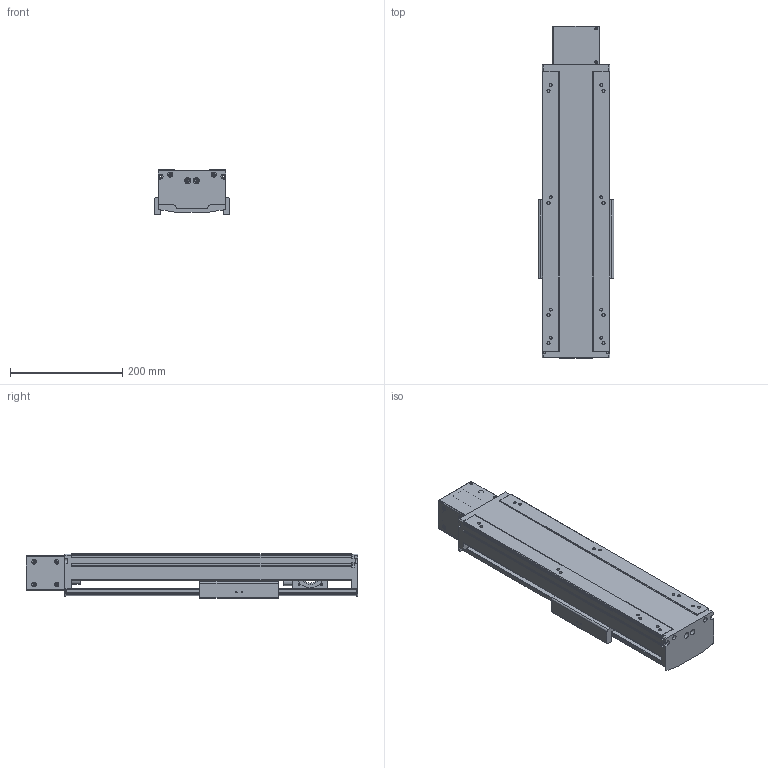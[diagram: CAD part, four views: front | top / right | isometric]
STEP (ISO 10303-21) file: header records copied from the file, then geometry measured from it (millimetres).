
FILE_DESCRIPTION(/* description */ (''),/* implementation_level */ '2;1');
FILE_NAME(/* name */ 'TKB120-FR-200_asm1_stp.stp',/* time_stamp */ '2016-06-28T15:57:49+08:00',/* author */ (''),/* organization */ (''),/* preprocessor_version */ 'ST-DEVELOPER v15',/* originating_system */ 'SIEMENS PLM Software NX 8.5',/* authorisation */ '');
FILE_SCHEMA (('AUTOMOTIVE_DESIGN { 1 0 10303 214 3 1 1 1 }'));
Length unit declared in the file: millimetre
Products named in the file (3): 200-2; 200-1; TKB120-FR-200_asm1_stp
Assembly tree (2 placements, depth 2):
  TKB120-FR-200_asm1_stp
    200-1
    200-2
Bounding box: 134 x 591 x 80 mm (x, y, z)
Volume: 1881830.3 mm3; surface area: 688755.5 mm2
Topology: 2 solids, 3 shells, 735 faces, 2071 edges, 1354 vertices
Faces by surface type: cylinder 353, plane 340, cone 42
Full cylindrical faces by diameter (mm): 2.5 x4, 3.3 x20, 4.2 x4, 4.5 x24, 5 x18, 5.5 x8, 6.6 x6, 6.8 x4, 7.5 x4, 8 x12, 9 x6, 9.75 x16, 10.5 x4, 11 x2, 12 x4, 14 x2, 17 x2, 35 x2, 40 x3, 50 x2, 52 x1
Entity records: 23505 total; most frequent: CARTESIAN_POINT 4851, DIRECTION 3952, ORIENTED_EDGE 3588, EDGE_CURVE 1794, AXIS2_PLACEMENT_3D 1490, VERTEX_POINT 1309, EDGE_LOOP 1065, LINE 972
